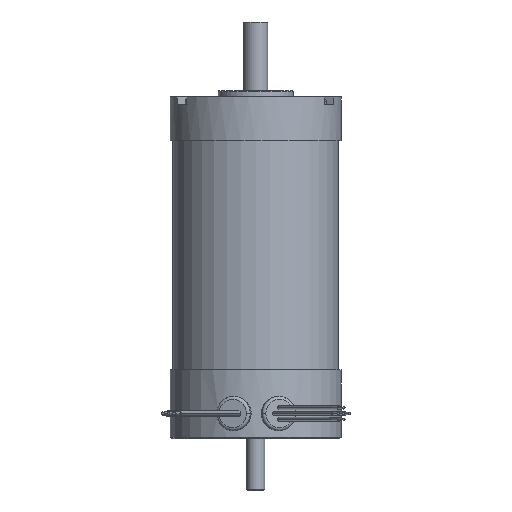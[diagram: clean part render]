
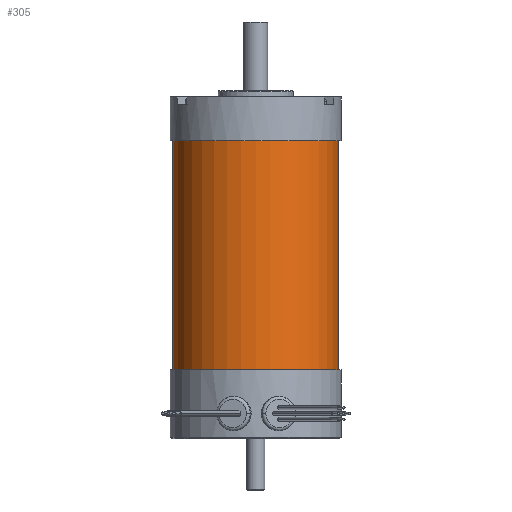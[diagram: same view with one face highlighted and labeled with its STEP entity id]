
A CAD part, front view. The second image highlights one B-rep face of the part: STEP entity #305.
In plain terms, the highlighted cylindrical face has radius 27.495 mm (diameter 54.991 mm), a partial arc.
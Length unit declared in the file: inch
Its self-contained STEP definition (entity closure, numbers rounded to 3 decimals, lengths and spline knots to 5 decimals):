
#121 = ORIENTED_EDGE ( 'NONE', *, *, #2148, .F. ) ;
#206 = CARTESIAN_POINT ( 'NONE',  ( -1.0825, 0., -3.57 ) ) ;
#305 = ADVANCED_FACE ( 'NONE', ( #11952 ), #6397, .T. ) ;
#482 = AXIS2_PLACEMENT_3D ( 'NONE', #7368, #8501, #13783 ) ;
#498 = DIRECTION ( 'NONE',  ( 0., 0., -1. ) ) ;
#1149 = DIRECTION ( 'NONE',  ( 0., 0., -1. ) ) ;
#1228 = CARTESIAN_POINT ( 'NONE',  ( 1.0825, 0., -0.575 ) ) ;
#1608 = ORIENTED_EDGE ( 'NONE', *, *, #6655, .T. ) ;
#1676 = CARTESIAN_POINT ( 'NONE',  ( 1.0825, 0., -3.57 ) ) ;
#1767 = EDGE_CURVE ( 'NONE', #11348, #13090, #4305, .T. ) ;
#2148 = EDGE_CURVE ( 'NONE', #4832, #13090, #13714, .T. ) ;
#4305 = CIRCLE ( 'NONE', #6732, 1.0825 ) ;
#4832 = VERTEX_POINT ( 'NONE', #6521 ) ;
#5146 = CARTESIAN_POINT ( 'NONE',  ( 1.0825, 0., -3.57 ) ) ;
#5256 = VECTOR ( 'NONE', #7929, 39.37008 ) ;
#6397 = CYLINDRICAL_SURFACE ( 'NONE', #482, 1.0825 ) ;
#6521 = CARTESIAN_POINT ( 'NONE',  ( -1.0825, 0., -3.57 ) ) ;
#6655 = EDGE_CURVE ( 'NONE', #13300, #11348, #9223, .T. ) ;
#6732 = AXIS2_PLACEMENT_3D ( 'NONE', #6987, #498, #8136 ) ;
#6938 = CIRCLE ( 'NONE', #11293, 1.0825 ) ;
#6987 = CARTESIAN_POINT ( 'NONE',  ( 0., 0., -0.575 ) ) ;
#7368 = CARTESIAN_POINT ( 'NONE',  ( 0., 0., -3.57 ) ) ;
#7621 = CARTESIAN_POINT ( 'NONE',  ( 0., 0., -3.57 ) ) ;
#7929 = DIRECTION ( 'NONE',  ( 0., 0., 1. ) ) ;
#8136 = DIRECTION ( 'NONE',  ( -1., 0., 0. ) ) ;
#8501 = DIRECTION ( 'NONE',  ( 0., 0., 1. ) ) ;
#8748 = DIRECTION ( 'NONE',  ( -1., 0., 0. ) ) ;
#9223 = LINE ( 'NONE', #5146, #11655 ) ;
#9893 = ORIENTED_EDGE ( 'NONE', *, *, #13929, .F. ) ;
#10042 = CARTESIAN_POINT ( 'NONE',  ( -1.0825, 0., -0.575 ) ) ;
#11293 = AXIS2_PLACEMENT_3D ( 'NONE', #7621, #1149, #8748 ) ;
#11348 = VERTEX_POINT ( 'NONE', #1228 ) ;
#11655 = VECTOR ( 'NONE', #13602, 39.37008 ) ;
#11952 = FACE_OUTER_BOUND ( 'NONE', #13621, .T. ) ;
#13090 = VERTEX_POINT ( 'NONE', #10042 ) ;
#13153 = ORIENTED_EDGE ( 'NONE', *, *, #1767, .T. ) ;
#13300 = VERTEX_POINT ( 'NONE', #1676 ) ;
#13602 = DIRECTION ( 'NONE',  ( 0., 0., 1. ) ) ;
#13621 = EDGE_LOOP ( 'NONE', ( #121, #9893, #1608, #13153 ) ) ;
#13714 = LINE ( 'NONE', #206, #5256 ) ;
#13783 = DIRECTION ( 'NONE',  ( 1., 0., 0. ) ) ;
#13929 = EDGE_CURVE ( 'NONE', #13300, #4832, #6938, .T. ) ;
